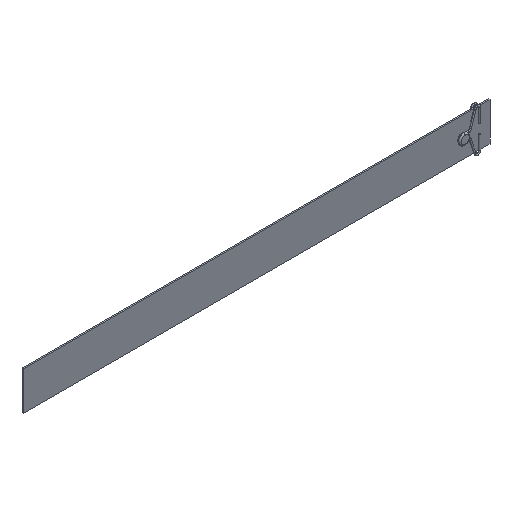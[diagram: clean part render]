
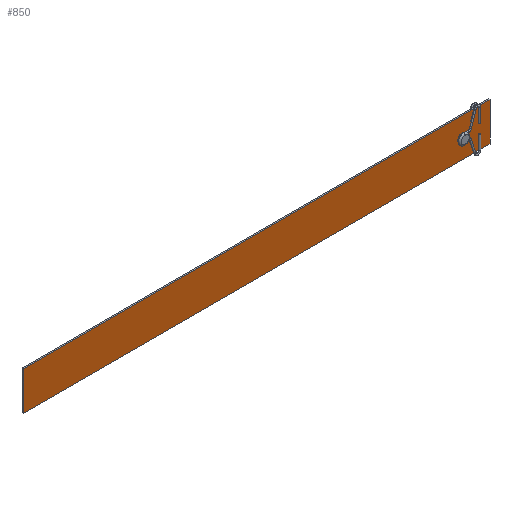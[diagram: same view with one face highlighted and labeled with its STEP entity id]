
A CAD part, isometric view. The second image highlights one B-rep face of the part: STEP entity #850.
In plain terms, the highlighted planar face has unit normal (0, -1, 0).
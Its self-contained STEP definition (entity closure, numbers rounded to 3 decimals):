
#64 = CARTESIAN_POINT ( 'NONE',  ( 0., -0.5, -12.4 ) ) ;
#121 = AXIS2_PLACEMENT_3D ( 'NONE', #1749, #1730, #1610 ) ;
#166 = EDGE_LOOP ( 'NONE', ( #1125, #1193 ) ) ;
#257 = LINE ( 'NONE', #526, #654 ) ;
#316 = FACE_OUTER_BOUND ( 'NONE', #721, .T. ) ;
#457 = CARTESIAN_POINT ( 'NONE',  ( 0., -0.5, 12.4 ) ) ;
#475 = DIRECTION ( 'NONE',  ( 0., 0., -1. ) ) ;
#517 = CARTESIAN_POINT ( 'NONE',  ( -300., -0.5, -12.4 ) ) ;
#526 = CARTESIAN_POINT ( 'NONE',  ( 0., -0.5, 12.4 ) ) ;
#547 = VECTOR ( 'NONE', #1786, 1000. ) ;
#555 = CARTESIAN_POINT ( 'NONE',  ( -18., -0.5, 1.95 ) ) ;
#575 = DIRECTION ( 'NONE',  ( 0., 0., 1. ) ) ;
#630 = VERTEX_POINT ( 'NONE', #1119 ) ;
#643 = VERTEX_POINT ( 'NONE', #457 ) ;
#648 = CARTESIAN_POINT ( 'NONE',  ( -18., -0.5, 0. ) ) ;
#654 = VECTOR ( 'NONE', #2102, 1000. ) ;
#721 = EDGE_LOOP ( 'NONE', ( #1785, #1733, #1085, #1283 ) ) ;
#729 = EDGE_CURVE ( 'NONE', #1448, #630, #1934, .T. ) ;
#746 = DIRECTION ( 'NONE',  ( 0., 1., 0. ) ) ;
#771 = DIRECTION ( 'NONE',  ( 0., 0., 1. ) ) ;
#809 = EDGE_CURVE ( 'NONE', #1167, #1474, #1254, .T. ) ;
#850 = ADVANCED_FACE ( 'NONE', ( #1555, #316 ), #1604, .F. ) ;
#867 = LINE ( 'NONE', #952, #2183 ) ;
#879 = DIRECTION ( 'NONE',  ( 0., 1., 0. ) ) ;
#881 = EDGE_CURVE ( 'NONE', #1474, #643, #257, .T. ) ;
#915 = EDGE_CURVE ( 'NONE', #630, #1448, #2017, .T. ) ;
#952 = CARTESIAN_POINT ( 'NONE',  ( 0., -0.5, 12.4 ) ) ;
#983 = VERTEX_POINT ( 'NONE', #64 ) ;
#1000 = LINE ( 'NONE', #2140, #547 ) ;
#1064 = EDGE_CURVE ( 'NONE', #643, #983, #867, .T. ) ;
#1085 = ORIENTED_EDGE ( 'NONE', *, *, #881, .F. ) ;
#1119 = CARTESIAN_POINT ( 'NONE',  ( -18., -0.5, -1.95 ) ) ;
#1125 = ORIENTED_EDGE ( 'NONE', *, *, #729, .T. ) ;
#1167 = VERTEX_POINT ( 'NONE', #517 ) ;
#1193 = ORIENTED_EDGE ( 'NONE', *, *, #915, .T. ) ;
#1203 = CARTESIAN_POINT ( 'NONE',  ( -300., -0.5, 12.4 ) ) ;
#1254 = LINE ( 'NONE', #1955, #1670 ) ;
#1283 = ORIENTED_EDGE ( 'NONE', *, *, #809, .F. ) ;
#1402 = DIRECTION ( 'NONE',  ( 0., 0., 1. ) ) ;
#1413 = CARTESIAN_POINT ( 'NONE',  ( 0., -0.5, 0. ) ) ;
#1448 = VERTEX_POINT ( 'NONE', #555 ) ;
#1474 = VERTEX_POINT ( 'NONE', #1203 ) ;
#1525 = AXIS2_PLACEMENT_3D ( 'NONE', #648, #746, #771 ) ;
#1555 = FACE_BOUND ( 'NONE', #166, .T. ) ;
#1604 = PLANE ( 'NONE',  #2109 ) ;
#1610 = DIRECTION ( 'NONE',  ( 0., 0., 1. ) ) ;
#1670 = VECTOR ( 'NONE', #1402, 1000. ) ;
#1730 = DIRECTION ( 'NONE',  ( 0., 1., 0. ) ) ;
#1733 = ORIENTED_EDGE ( 'NONE', *, *, #1064, .F. ) ;
#1744 = EDGE_CURVE ( 'NONE', #983, #1167, #1000, .T. ) ;
#1749 = CARTESIAN_POINT ( 'NONE',  ( -18., -0.5, 0. ) ) ;
#1785 = ORIENTED_EDGE ( 'NONE', *, *, #1744, .F. ) ;
#1786 = DIRECTION ( 'NONE',  ( -1., 0., 0. ) ) ;
#1934 = CIRCLE ( 'NONE', #1525, 1.95 ) ;
#1955 = CARTESIAN_POINT ( 'NONE',  ( -300., -0.5, -12.4 ) ) ;
#2017 = CIRCLE ( 'NONE', #121, 1.95 ) ;
#2102 = DIRECTION ( 'NONE',  ( 1., 0., 0. ) ) ;
#2109 = AXIS2_PLACEMENT_3D ( 'NONE', #1413, #879, #575 ) ;
#2140 = CARTESIAN_POINT ( 'NONE',  ( 0., -0.5, -12.4 ) ) ;
#2183 = VECTOR ( 'NONE', #475, 1000. ) ;
